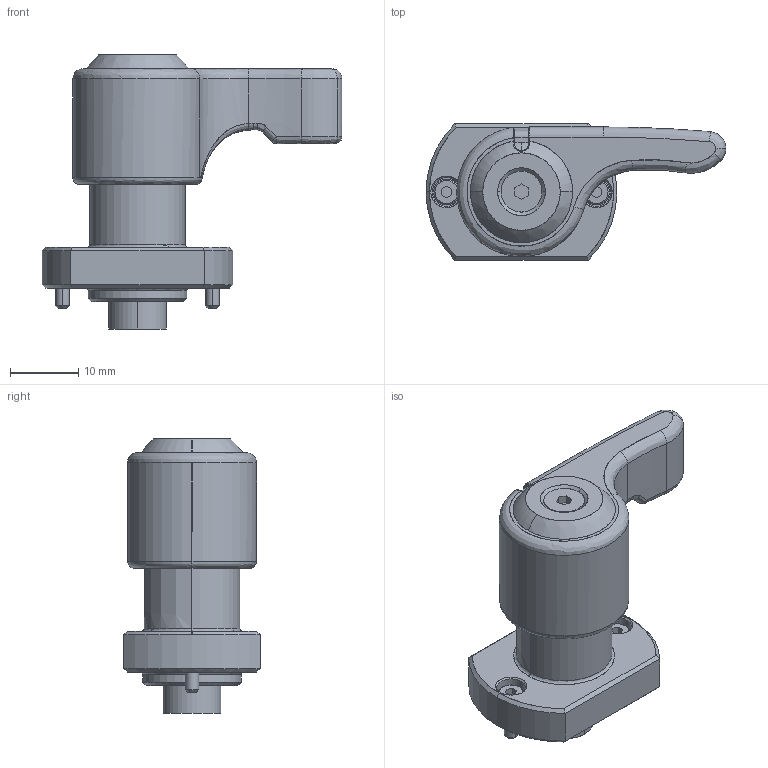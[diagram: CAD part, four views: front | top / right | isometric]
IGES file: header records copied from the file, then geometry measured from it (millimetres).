
Start section: SolidWorks IGES file using analytic representation for surfaces
Global section: file name: Y:\5.更新分\2023年対応\0405_諸々微修正分\QCPS0828-6-OG-F\qcps0828-6-og-f.IGS; native system: SolidWorks 2021; preprocessor: SolidWorks 2021; author: ImaoCorp; date: 230407.105531; units: millimetre
Bounding box: 44 x 20 x 40.21 mm (x, y, z)
Surface area: 7710.6 mm2 (no closed solid volume)
Topology: 0 solids, 0 shells, 354 faces, 3699 edges, 3689 vertices
Faces by surface type: bspline 199, revolution 155
